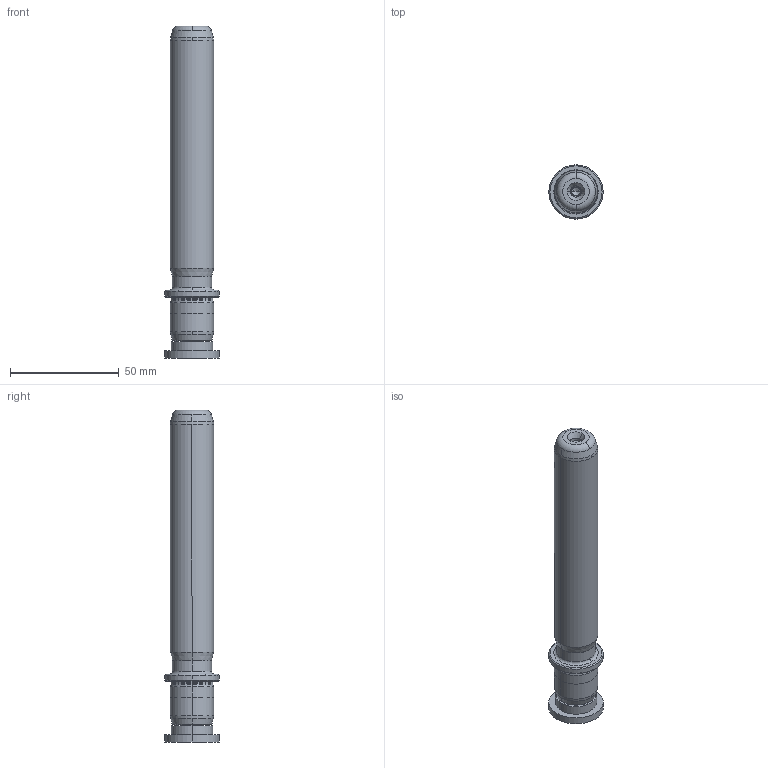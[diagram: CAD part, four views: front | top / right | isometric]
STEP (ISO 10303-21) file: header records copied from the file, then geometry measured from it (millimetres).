
FILE_DESCRIPTION((''),'2;1');
FILE_NAME('P22_020_125.stp','2009-02-02T11:06:44',(''),(''),'Mechanical Desktop 2009','Mechanical Desktop 2009',', , ');
FILE_SCHEMA(('CONFIG_CONTROL_DESIGN'));
Length unit declared in the file: millimetre
Products named in the file (2): Product; blmdl1
Assembly tree (1 placements, depth 2):
  Product
    blmdl1
Bounding box: 25 x 25 x 153 mm (x, y, z)
Volume: 47431.7 mm3; surface area: 12483.4 mm2
Topology: 3 solids, 3 shells, 99 faces, 237 edges, 149 vertices
Faces by surface type: cylinder 32, cone 28, plane 19, bspline 14, torus 6
Entity records: 3579 total; most frequent: CARTESIAN_POINT 1099, DIRECTION 562, ORIENTED_EDGE 466, AXIS2_PLACEMENT_3D 242, EDGE_CURVE 233, CIRCLE 155, VERTEX_POINT 149, EDGE_LOOP 110
